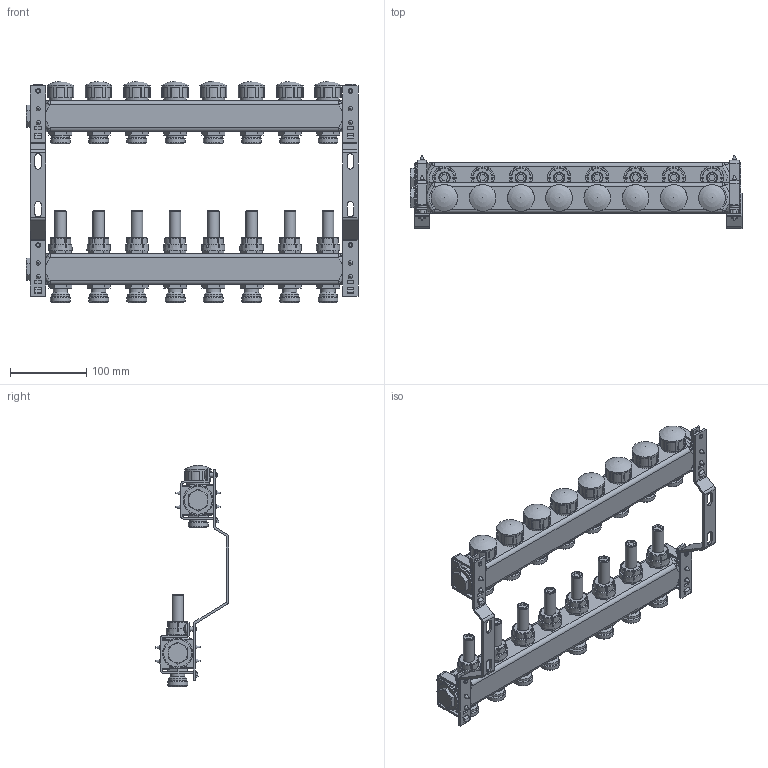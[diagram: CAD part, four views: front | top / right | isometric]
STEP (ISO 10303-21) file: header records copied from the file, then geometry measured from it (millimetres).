
FILE_DESCRIPTION(('STEP AP203'), '1');
FILE_NAME('VTc.584.EMNX.0608', '', ('UNSPECIFIED'), ('UNSPECIFIED'), 'C3D Converter', 'C3D Toolkit', '');
FILE_SCHEMA(('CONFIG_CONTROL_DESIGN'));
Length unit declared in the file: millimetre
Bounding box: 434.2 x 95.7 x 289.2 mm (x, y, z)
Volume: 1850305 mm3; surface area: 270845.2 mm2
Topology: 1 solids, 1 shells, 1610 faces, 4424 edges, 2868 vertices
Faces by surface type: plane 1008, cylinder 352, torus 116, cone 90, bspline 36, sphere 8
Full cylindrical faces by diameter (mm): 5.4 x16, 6 x8, 12 x4, 15 x8, 18.4 x8, 22.9 x8, 23.5 x8, 25.9 x8, 26 x8, 29.5 x8, 34.9 x8, 35.3 x2, 36.5 x2, 39.3 x4
Entity records: 62890 total; most frequent: CARTESIAN_POINT 22915, ORIENTED_EDGE 8388, DIRECTION 7982, EDGE_CURVE 4194, VERTEX_POINT 2856, AXIS2_PLACEMENT_3D 2733, LINE 2516, VECTOR 2516
